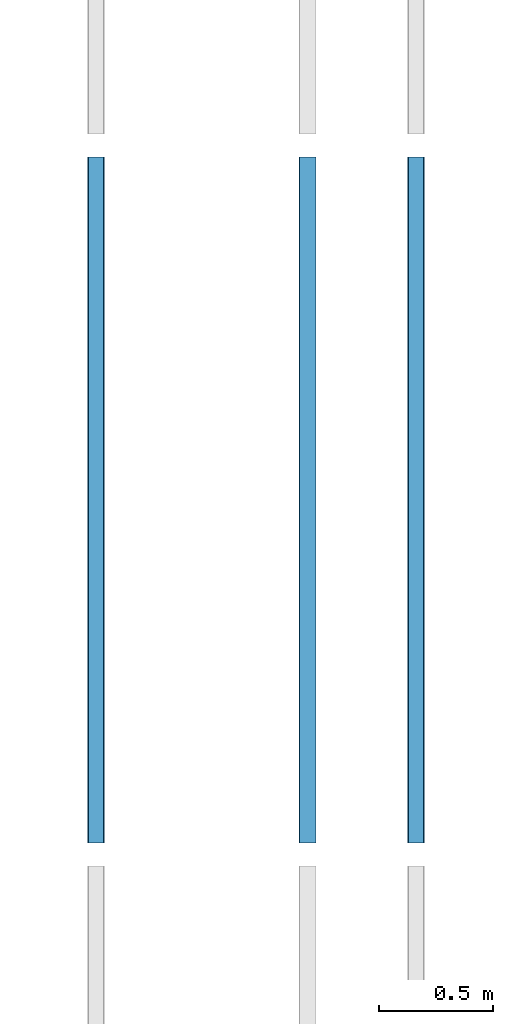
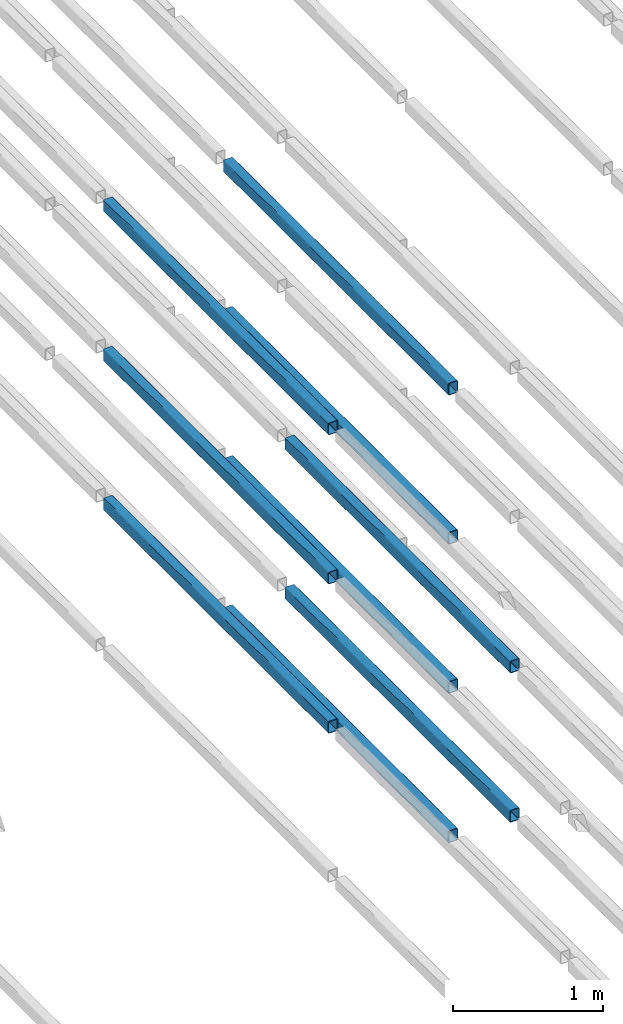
# One storey, part 86 of 290: 9 beams.
"""IFC2X3 building model written with IfcOpenShell, lengths in metres."""

from ifc_helpers import new_model, entity, si_unit, converted_unit, derived_unit, direction, frame, frame_2d, origin, place, context, subcontext, project, spatial, polyline, circle_curve, parameter, trimmed, segment, composite_curve, outline, extrude, material, type_object, element, save


model = new_model("IFC2X3")

# Units and contexts
model_context = context("Model", 3, precision=1e-05, world=origin(), true_north=direction((6.12303176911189e-17, 1.0)))
body_context = subcontext(model_context, "Body", "Model", "MODEL_VIEW")
ifc_project = project(units=[si_unit("LENGTHUNIT", "METRE"), si_unit("AREAUNIT", "SQUARE_METRE"), si_unit("VOLUMEUNIT", "CUBIC_METRE"), converted_unit("PLANEANGLEUNIT", "DEGREE", entity("IfcRatioMeasure", 0.0174532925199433), si_unit("PLANEANGLEUNIT", "RADIAN"), dimensions=[0, 0, 0, 0, 0, 0, 0]), si_unit("MASSUNIT", "GRAM", prefix="KILO"), derived_unit("MASSDENSITYUNIT", [(si_unit("MASSUNIT", "GRAM", prefix="KILO"), 1), (si_unit("LENGTHUNIT", "METRE"), -3)]), derived_unit("MOMENTOFINERTIAUNIT", [(si_unit("LENGTHUNIT", "METRE"), 4)]), si_unit("TIMEUNIT", "SECOND"), si_unit("FREQUENCYUNIT", "HERTZ"), si_unit("THERMODYNAMICTEMPERATUREUNIT", "DEGREE_CELSIUS"), derived_unit("THERMALTRANSMITTANCEUNIT", [(si_unit("MASSUNIT", "GRAM", prefix="KILO"), 1), (si_unit("THERMODYNAMICTEMPERATUREUNIT", "KELVIN"), -1), (si_unit("TIMEUNIT", "SECOND"), -3)]), derived_unit("VOLUMETRICFLOWRATEUNIT", [(si_unit("LENGTHUNIT", "METRE"), 3), (si_unit("TIMEUNIT", "SECOND"), -1)]), si_unit("ELECTRICCURRENTUNIT", "AMPERE"), si_unit("ELECTRICVOLTAGEUNIT", "VOLT"), si_unit("POWERUNIT", "WATT"), si_unit("FORCEUNIT", "NEWTON", prefix="KILO"), si_unit("ILLUMINANCEUNIT", "LUX"), si_unit("LUMINOUSFLUXUNIT", "LUMEN"), si_unit("LUMINOUSINTENSITYUNIT", "CANDELA"), derived_unit("USERDEFINED", [(si_unit("MASSUNIT", "GRAM", prefix="KILO"), -1), (si_unit("LENGTHUNIT", "METRE"), -2), (si_unit("TIMEUNIT", "SECOND"), 3), (si_unit("LUMINOUSFLUXUNIT", "LUMEN"), 1)]), derived_unit("LINEARVELOCITYUNIT", [(si_unit("LENGTHUNIT", "METRE"), 1), (si_unit("TIMEUNIT", "SECOND"), -1)]), si_unit("PRESSUREUNIT", "PASCAL"), derived_unit("USERDEFINED", [(si_unit("LENGTHUNIT", "METRE"), -2), (si_unit("MASSUNIT", "GRAM", prefix="KILO"), 1), (si_unit("TIMEUNIT", "SECOND"), -2)]), derived_unit("LINEARFORCEUNIT", [(si_unit("MASSUNIT", "GRAM", prefix="KILO"), 1), (si_unit("LENGTHUNIT", "METRE"), 1), (si_unit("TIMEUNIT", "SECOND"), -2), (si_unit("LENGTHUNIT", "METRE"), -1)]), derived_unit("PLANARFORCEUNIT", [(si_unit("MASSUNIT", "GRAM", prefix="KILO"), 1), (si_unit("LENGTHUNIT", "METRE"), 1), (si_unit("TIMEUNIT", "SECOND"), -2), (si_unit("LENGTHUNIT", "METRE"), -2)])], contexts=[model_context])

# Site, building, storey
site_placement = place(None, origin())
site = spatial("IfcSite", under=ifc_project, at=site_placement, Name="Default", CompositionType="ELEMENT")
building_placement = place(site_placement, origin())
building = spatial("IfcBuilding", under=site, at=building_placement, CompositionType="ELEMENT")
storey_placement = place(building_placement, frame((0.0, 0.0, 4.0)))
storey = spatial("IfcBuildingStorey", under=building, at=storey_placement, Name="01_OG", CompositionType="ELEMENT", Elevation=4.0)

# Beams
ifc_material = material(Name="Metall - Baustahl S235 blau")
beam_type = type_object("IfcBeamType", Name="RHS Träger (EN 10219-2):RHS 100 x 75 x 5", PredefinedType="NOTDEFINED")
beam_1_placement = place(storey_placement, frame((-185.015111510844, 42.648088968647, 0.0150000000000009), z_axis=(0.0, 0.0, 1.0), x_axis=(0.0, 1.0, 0.0)))
element("IfcBeam", 1, at=beam_1_placement, inside=storey, type_object=beam_type, material=ifc_material, Name="RHS Träger (EN 10219-2):RHS 100 x 75 x 5", ObjectType="RHS Träger (EN 10219-2):RHS 100 x 75 x 5", context=body_context, shape_type="SweptSolid", body=[
    extrude(outline(composite_curve([segment(trimmed(circle_curve(frame_2d((-0.0274999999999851, -0.0400000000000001), x_axis=(1.0, 0.0)), 0.01), [parameter(180.0)], [parameter(270.0)], True, "PARAMETER"), True, "CONTINUOUS"), segment(polyline([(-0.0274999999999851, -0.05), (0.0274999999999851, -0.05)]), True, "CONTINUOUS"), segment(trimmed(circle_curve(frame_2d((0.0274999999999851, -0.0400000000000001), x_axis=(1.0, 0.0)), 0.01), [parameter(270.0)], [parameter(5.08888749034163e-14)], True, "PARAMETER"), True, "CONTINUOUS"), segment(polyline([(0.0375000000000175, -0.0400000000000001), (0.0375000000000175, 0.0400000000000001)]), True, "CONTINUOUS"), segment(trimmed(circle_curve(frame_2d((0.0274999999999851, 0.0400000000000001), x_axis=(1.0, 0.0)), 0.01), [parameter(360.0)], [parameter(89.9999999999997)], True, "PARAMETER"), True, "CONTINUOUS"), segment(polyline([(0.0274999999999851, 0.05), (-0.0274999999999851, 0.05)]), True, "CONTINUOUS"), segment(trimmed(circle_curve(frame_2d((-0.0274999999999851, 0.0400000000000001), x_axis=(1.0, 0.0)), 0.01), [parameter(90.0000000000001)], [parameter(180.0)], True, "PARAMETER"), True, "CONTINUOUS"), segment(polyline([(-0.0374999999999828, 0.0400000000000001), (-0.0374999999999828, -0.0400000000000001)]), True, "CONTINUOUS")], self_intersect=False), holes=[composite_curve([segment(polyline([(0.0274999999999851, -0.0450000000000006), (-0.0274999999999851, -0.0450000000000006)]), True, "CONTINUOUS"), segment(trimmed(circle_curve(frame_2d((-0.0274999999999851, -0.0400000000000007), x_axis=(1.0, 0.0)), 0.005), [parameter(180.0)], [parameter(270.0)], True, "PARAMETER"), False, "CONTINUOUS"), segment(polyline([(-0.0325000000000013, -0.0400000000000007), (-0.0325000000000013, 0.039999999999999)]), True, "CONTINUOUS"), segment(trimmed(circle_curve(frame_2d((-0.0274999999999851, 0.039999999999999), x_axis=(1.0, 0.0)), 0.005), [parameter(90.0000000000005)], [parameter(180.0)], True, "PARAMETER"), False, "CONTINUOUS"), segment(polyline([(-0.0274999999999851, 0.044999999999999), (0.0274999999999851, 0.044999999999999)]), True, "CONTINUOUS"), segment(trimmed(circle_curve(frame_2d((0.0274999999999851, 0.039999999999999), x_axis=(1.0, 0.0)), 0.005), [parameter(0.0)], [parameter(90.0000000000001)], True, "PARAMETER"), False, "CONTINUOUS"), segment(polyline([(0.0325000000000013, 0.039999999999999), (0.0325000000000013, -0.0400000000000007)]), True, "CONTINUOUS"), segment(trimmed(circle_curve(frame_2d((0.0274999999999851, -0.0400000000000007), x_axis=(1.0, 0.0)), 0.005), [parameter(270.0)], [parameter(4.07110999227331e-13)], True, "PARAMETER"), False, "CONTINUOUS")], self_intersect=False)]), frame((9.99999999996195e-05, 0.0375000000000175, -0.0500000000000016), z_axis=(1.0, 0.0, 0.0), x_axis=(0.0, -1.0, 0.0)), (0.0, 0.0, 1.0), 2.99979999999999),
])
beam_2_placement = place(storey_placement, frame((-185.015111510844, 42.648088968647, 1.23), z_axis=(0.0, 0.0, 1.0), x_axis=(0.0, 1.0, 0.0)))
element("IfcBeam", 2, at=beam_2_placement, inside=storey, type_object=beam_type, material=ifc_material, Name="RHS Träger (EN 10219-2):RHS 100 x 75 x 5", ObjectType="RHS Träger (EN 10219-2):RHS 100 x 75 x 5", context=body_context, shape_type="SweptSolid", body=[
    extrude(outline(composite_curve([segment(trimmed(circle_curve(frame_2d((-0.0274999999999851, -0.0399999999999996), x_axis=(1.0, 0.0)), 0.01), [parameter(180.0)], [parameter(270.0)], True, "PARAMETER"), True, "CONTINUOUS"), segment(polyline([(-0.0274999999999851, -0.0499999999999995), (0.0274999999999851, -0.0499999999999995)]), True, "CONTINUOUS"), segment(trimmed(circle_curve(frame_2d((0.0274999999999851, -0.0399999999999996), x_axis=(1.0, 0.0)), 0.01), [parameter(270.0)], [parameter(5.08888749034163e-14)], True, "PARAMETER"), True, "CONTINUOUS"), segment(polyline([(0.0375000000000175, -0.0399999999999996), (0.0375000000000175, 0.0399999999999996)]), True, "CONTINUOUS"), segment(trimmed(circle_curve(frame_2d((0.0274999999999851, 0.0399999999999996), x_axis=(1.0, 0.0)), 0.01), [parameter(360.0)], [parameter(89.9999999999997)], True, "PARAMETER"), True, "CONTINUOUS"), segment(polyline([(0.0274999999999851, 0.0500000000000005), (-0.0274999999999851, 0.0500000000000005)]), True, "CONTINUOUS"), segment(trimmed(circle_curve(frame_2d((-0.0274999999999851, 0.0399999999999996), x_axis=(1.0, 0.0)), 0.01), [parameter(90.0000000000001)], [parameter(180.0)], True, "PARAMETER"), True, "CONTINUOUS"), segment(polyline([(-0.0374999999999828, 0.0399999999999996), (-0.0374999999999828, -0.0399999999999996)]), True, "CONTINUOUS")], self_intersect=False), holes=[composite_curve([segment(polyline([(0.0274999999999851, -0.0450000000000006), (-0.0274999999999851, -0.0450000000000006)]), True, "CONTINUOUS"), segment(trimmed(circle_curve(frame_2d((-0.0274999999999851, -0.0400000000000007), x_axis=(1.0, 0.0)), 0.005), [parameter(180.0)], [parameter(270.0)], True, "PARAMETER"), False, "CONTINUOUS"), segment(polyline([(-0.0325000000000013, -0.0400000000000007), (-0.0325000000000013, 0.0399999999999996)]), True, "CONTINUOUS"), segment(trimmed(circle_curve(frame_2d((-0.0274999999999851, 0.0399999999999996), x_axis=(1.0, 0.0)), 0.005), [parameter(90.0000000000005)], [parameter(180.0)], True, "PARAMETER"), False, "CONTINUOUS"), segment(polyline([(-0.0274999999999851, 0.0449999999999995), (0.0274999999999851, 0.0449999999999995)]), True, "CONTINUOUS"), segment(trimmed(circle_curve(frame_2d((0.0274999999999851, 0.0399999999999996), x_axis=(1.0, 0.0)), 0.005), [parameter(0.0)], [parameter(90.0000000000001)], True, "PARAMETER"), False, "CONTINUOUS"), segment(polyline([(0.0325000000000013, 0.0399999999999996), (0.0325000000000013, -0.0400000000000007)]), True, "CONTINUOUS"), segment(trimmed(circle_curve(frame_2d((0.0274999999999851, -0.0400000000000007), x_axis=(1.0, 0.0)), 0.005), [parameter(270.0)], [parameter(4.07110999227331e-13)], True, "PARAMETER"), False, "CONTINUOUS")], self_intersect=False)]), frame((9.99999999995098e-05, 0.0375000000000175, -0.0500000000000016), z_axis=(1.0, 0.0, 0.0), x_axis=(0.0, -1.0, 0.0)), (0.0, 0.0, 1.0), 2.99979999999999),
])
beam_3_placement = place(storey_placement, frame((-185.015111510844, 42.648088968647, 2.445), z_axis=(0.0, 0.0, 1.0), x_axis=(0.0, 1.0, 0.0)))
element("IfcBeam", 3, at=beam_3_placement, inside=storey, type_object=beam_type, material=ifc_material, Name="RHS Träger (EN 10219-2):RHS 100 x 75 x 5", ObjectType="RHS Träger (EN 10219-2):RHS 100 x 75 x 5", context=body_context, shape_type="SweptSolid", body=[
    extrude(outline(composite_curve([segment(trimmed(circle_curve(frame_2d((-0.0274999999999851, -0.0399999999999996), x_axis=(1.0, 0.0)), 0.01), [parameter(180.0)], [parameter(270.0)], True, "PARAMETER"), True, "CONTINUOUS"), segment(polyline([(-0.0274999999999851, -0.0499999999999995), (0.0274999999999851, -0.0499999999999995)]), True, "CONTINUOUS"), segment(trimmed(circle_curve(frame_2d((0.0274999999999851, -0.0399999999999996), x_axis=(1.0, 0.0)), 0.01), [parameter(270.0)], [parameter(5.08888749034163e-14)], True, "PARAMETER"), True, "CONTINUOUS"), segment(polyline([(0.0375000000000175, -0.0399999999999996), (0.0375000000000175, 0.0399999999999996)]), True, "CONTINUOUS"), segment(trimmed(circle_curve(frame_2d((0.0274999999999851, 0.0399999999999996), x_axis=(1.0, 0.0)), 0.01), [parameter(360.0)], [parameter(89.9999999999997)], True, "PARAMETER"), True, "CONTINUOUS"), segment(polyline([(0.0274999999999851, 0.0500000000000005), (-0.0274999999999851, 0.0500000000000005)]), True, "CONTINUOUS"), segment(trimmed(circle_curve(frame_2d((-0.0274999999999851, 0.0399999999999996), x_axis=(1.0, 0.0)), 0.01), [parameter(90.0000000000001)], [parameter(180.0)], True, "PARAMETER"), True, "CONTINUOUS"), segment(polyline([(-0.0374999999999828, 0.0399999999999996), (-0.0374999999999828, -0.0399999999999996)]), True, "CONTINUOUS")], self_intersect=False), holes=[composite_curve([segment(polyline([(0.0274999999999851, -0.0450000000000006), (-0.0274999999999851, -0.0450000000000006)]), True, "CONTINUOUS"), segment(trimmed(circle_curve(frame_2d((-0.0274999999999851, -0.0400000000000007), x_axis=(1.0, 0.0)), 0.005), [parameter(180.0)], [parameter(270.0)], True, "PARAMETER"), False, "CONTINUOUS"), segment(polyline([(-0.0325000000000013, -0.0400000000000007), (-0.0325000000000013, 0.0399999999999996)]), True, "CONTINUOUS"), segment(trimmed(circle_curve(frame_2d((-0.0274999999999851, 0.0399999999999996), x_axis=(1.0, 0.0)), 0.005), [parameter(90.0000000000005)], [parameter(180.0)], True, "PARAMETER"), False, "CONTINUOUS"), segment(polyline([(-0.0274999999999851, 0.0449999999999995), (0.0274999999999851, 0.0449999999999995)]), True, "CONTINUOUS"), segment(trimmed(circle_curve(frame_2d((0.0274999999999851, 0.0399999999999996), x_axis=(1.0, 0.0)), 0.005), [parameter(0.0)], [parameter(90.0000000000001)], True, "PARAMETER"), False, "CONTINUOUS"), segment(polyline([(0.0325000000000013, 0.0399999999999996), (0.0325000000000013, -0.0400000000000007)]), True, "CONTINUOUS"), segment(trimmed(circle_curve(frame_2d((0.0274999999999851, -0.0400000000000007), x_axis=(1.0, 0.0)), 0.005), [parameter(270.0)], [parameter(4.07110999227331e-13)], True, "PARAMETER"), False, "CONTINUOUS")], self_intersect=False)]), frame((9.99999999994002e-05, 0.0375000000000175, -0.0500000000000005), z_axis=(1.0, 0.0, 0.0), x_axis=(0.0, -1.0, 0.0)), (0.0, 0.0, 1.0), 2.99979999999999),
])
beam_4_placement = place(storey_placement, frame((-184.165111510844, 42.648088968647, -1.2), z_axis=(0.0, 0.0, 1.0), x_axis=(0.0, 1.0, 0.0)))
element("IfcBeam", 4, at=beam_4_placement, inside=storey, type_object=beam_type, material=ifc_material, Name="RHS Träger (EN 10219-2):RHS 100 x 75 x 5", ObjectType="RHS Träger (EN 10219-2):RHS 100 x 75 x 5", context=body_context, shape_type="SweptSolid", body=[
    extrude(outline(composite_curve([segment(polyline([(-0.0400000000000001, -0.0374999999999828), (0.0400000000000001, -0.0374999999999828)]), True, "CONTINUOUS"), segment(trimmed(circle_curve(frame_2d((0.0400000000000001, -0.0274999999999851), x_axis=(0.0, 1.0)), 0.01), [parameter(180.0)], [parameter(270.0)], True, "PARAMETER"), True, "CONTINUOUS"), segment(polyline([(0.05, -0.0274999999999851), (0.05, 0.0274999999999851)]), True, "CONTINUOUS"), segment(trimmed(circle_curve(frame_2d((0.0400000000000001, 0.0274999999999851), x_axis=(0.0, 1.0)), 0.01), [parameter(270.0)], [parameter(4.07110999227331e-13)], True, "PARAMETER"), True, "CONTINUOUS"), segment(polyline([(0.0400000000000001, 0.0375000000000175), (-0.0400000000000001, 0.0375000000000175)]), True, "CONTINUOUS"), segment(trimmed(circle_curve(frame_2d((-0.0400000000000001, 0.0274999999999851), x_axis=(0.0, 1.0)), 0.01), [parameter(360.0)], [parameter(90.0000000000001)], True, "PARAMETER"), True, "CONTINUOUS"), segment(polyline([(-0.05, 0.0274999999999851), (-0.05, -0.0274999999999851)]), True, "CONTINUOUS"), segment(trimmed(circle_curve(frame_2d((-0.0400000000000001, -0.0274999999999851), x_axis=(0.0, 1.0)), 0.01), [parameter(90.0000000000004)], [parameter(180.0)], True, "PARAMETER"), True, "CONTINUOUS")], self_intersect=False), holes=[composite_curve([segment(trimmed(circle_curve(frame_2d((-0.0400000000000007, 0.0274999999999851), x_axis=(0.0, 1.0)), 0.005), [parameter(360.0)], [parameter(89.9999999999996)], True, "PARAMETER"), False, "CONTINUOUS"), segment(polyline([(-0.0400000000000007, 0.0325000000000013), (0.039999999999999, 0.0325000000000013)]), True, "CONTINUOUS"), segment(trimmed(circle_curve(frame_2d((0.039999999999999, 0.0274999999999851), x_axis=(0.0, 1.0)), 0.005), [parameter(270.0)], [parameter(0.0)], True, "PARAMETER"), False, "CONTINUOUS"), segment(polyline([(0.044999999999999, 0.0274999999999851), (0.044999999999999, -0.0274999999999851)]), True, "CONTINUOUS"), segment(trimmed(circle_curve(frame_2d((0.039999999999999, -0.0274999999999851), x_axis=(0.0, 1.0)), 0.005), [parameter(180.0)], [parameter(269.999999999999)], True, "PARAMETER"), False, "CONTINUOUS"), segment(polyline([(0.039999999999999, -0.0325000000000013), (-0.0400000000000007, -0.0325000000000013)]), True, "CONTINUOUS"), segment(trimmed(circle_curve(frame_2d((-0.0400000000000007, -0.0274999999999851), x_axis=(0.0, 1.0)), 0.005), [parameter(90.0000000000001)], [parameter(180.0)], True, "PARAMETER"), False, "CONTINUOUS"), segment(polyline([(-0.0450000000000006, -0.0274999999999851), (-0.0450000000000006, 0.0274999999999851)]), True, "CONTINUOUS")], self_intersect=False)]), frame((0.000100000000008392, -0.0375000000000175, -0.0500000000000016), z_axis=(1.0, 0.0, 0.0), x_axis=(0.0, 0.0, -1.0)), (0.0, 0.0, 1.0), 2.99979999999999),
])
beam_5_placement = place(storey_placement, frame((-184.165111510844, 42.648088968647, 0.0150000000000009), z_axis=(0.0, 0.0, 1.0), x_axis=(0.0, 1.0, 0.0)))
element("IfcBeam", 5, at=beam_5_placement, inside=storey, type_object=beam_type, material=ifc_material, Name="RHS Träger (EN 10219-2):RHS 100 x 75 x 5", ObjectType="RHS Träger (EN 10219-2):RHS 100 x 75 x 5", context=body_context, shape_type="SweptSolid", body=[
    extrude(outline(composite_curve([segment(polyline([(-0.0400000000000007, -0.0374999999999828), (0.0399999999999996, -0.0374999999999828)]), True, "CONTINUOUS"), segment(trimmed(circle_curve(frame_2d((0.0399999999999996, -0.0274999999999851), x_axis=(0.0, 1.0)), 0.01), [parameter(180.0)], [parameter(270.0)], True, "PARAMETER"), True, "CONTINUOUS"), segment(polyline([(0.0499999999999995, -0.0274999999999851), (0.0499999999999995, 0.0274999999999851)]), True, "CONTINUOUS"), segment(trimmed(circle_curve(frame_2d((0.0399999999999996, 0.0274999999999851), x_axis=(0.0, 1.0)), 0.01), [parameter(270.0)], [parameter(4.07110999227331e-13)], True, "PARAMETER"), True, "CONTINUOUS"), segment(polyline([(0.0399999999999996, 0.0375000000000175), (-0.0400000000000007, 0.0375000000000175)]), True, "CONTINUOUS"), segment(trimmed(circle_curve(frame_2d((-0.0400000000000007, 0.0274999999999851), x_axis=(0.0, 1.0)), 0.01), [parameter(360.0)], [parameter(90.0000000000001)], True, "PARAMETER"), True, "CONTINUOUS"), segment(polyline([(-0.0500000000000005, 0.0274999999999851), (-0.0500000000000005, -0.0274999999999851)]), True, "CONTINUOUS"), segment(trimmed(circle_curve(frame_2d((-0.0400000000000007, -0.0274999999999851), x_axis=(0.0, 1.0)), 0.01), [parameter(90.0000000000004)], [parameter(180.0)], True, "PARAMETER"), True, "CONTINUOUS")], self_intersect=False), holes=[composite_curve([segment(trimmed(circle_curve(frame_2d((-0.0400000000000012, 0.0274999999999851), x_axis=(0.0, 1.0)), 0.005), [parameter(360.0)], [parameter(89.9999999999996)], True, "PARAMETER"), False, "CONTINUOUS"), segment(polyline([(-0.0400000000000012, 0.0325000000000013), (0.0399999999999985, 0.0325000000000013)]), True, "CONTINUOUS"), segment(trimmed(circle_curve(frame_2d((0.0399999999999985, 0.0274999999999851), x_axis=(0.0, 1.0)), 0.005), [parameter(270.0)], [parameter(0.0)], True, "PARAMETER"), False, "CONTINUOUS"), segment(polyline([(0.0449999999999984, 0.0274999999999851), (0.0449999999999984, -0.0274999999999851)]), True, "CONTINUOUS"), segment(trimmed(circle_curve(frame_2d((0.0399999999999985, -0.0274999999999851), x_axis=(0.0, 1.0)), 0.005), [parameter(180.0)], [parameter(269.999999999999)], True, "PARAMETER"), False, "CONTINUOUS"), segment(polyline([(0.0399999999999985, -0.0325000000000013), (-0.0400000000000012, -0.0325000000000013)]), True, "CONTINUOUS"), segment(trimmed(circle_curve(frame_2d((-0.0400000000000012, -0.0274999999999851), x_axis=(0.0, 1.0)), 0.005), [parameter(90.0000000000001)], [parameter(180.0)], True, "PARAMETER"), False, "CONTINUOUS"), segment(polyline([(-0.0450000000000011, -0.0274999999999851), (-0.0450000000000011, 0.0274999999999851)]), True, "CONTINUOUS")], self_intersect=False)]), frame((0.000100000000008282, -0.0375000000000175, -0.0500000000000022), z_axis=(1.0, 0.0, 0.0), x_axis=(0.0, 0.0, -1.0)), (0.0, 0.0, 1.0), 2.99979999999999),
])
beam_6_placement = place(storey_placement, frame((-184.165111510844, 42.648088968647, 1.23), z_axis=(0.0, 0.0, 1.0), x_axis=(0.0, 1.0, 0.0)))
element("IfcBeam", 6, at=beam_6_placement, inside=storey, type_object=beam_type, material=ifc_material, Name="RHS Träger (EN 10219-2):RHS 100 x 75 x 5", ObjectType="RHS Träger (EN 10219-2):RHS 100 x 75 x 5", context=body_context, shape_type="SweptSolid", body=[
    extrude(outline(composite_curve([segment(polyline([(-0.0399999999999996, -0.0374999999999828), (0.0399999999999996, -0.0374999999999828)]), True, "CONTINUOUS"), segment(trimmed(circle_curve(frame_2d((0.0399999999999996, -0.0274999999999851), x_axis=(0.0, 1.0)), 0.01), [parameter(180.0)], [parameter(270.0)], True, "PARAMETER"), True, "CONTINUOUS"), segment(polyline([(0.0500000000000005, -0.0274999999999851), (0.0500000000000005, 0.0274999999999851)]), True, "CONTINUOUS"), segment(trimmed(circle_curve(frame_2d((0.0399999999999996, 0.0274999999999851), x_axis=(0.0, 1.0)), 0.01), [parameter(270.0)], [parameter(4.07110999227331e-13)], True, "PARAMETER"), True, "CONTINUOUS"), segment(polyline([(0.0399999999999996, 0.0375000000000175), (-0.0399999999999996, 0.0375000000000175)]), True, "CONTINUOUS"), segment(trimmed(circle_curve(frame_2d((-0.0399999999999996, 0.0274999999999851), x_axis=(0.0, 1.0)), 0.01), [parameter(360.0)], [parameter(90.0000000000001)], True, "PARAMETER"), True, "CONTINUOUS"), segment(polyline([(-0.0499999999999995, 0.0274999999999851), (-0.0499999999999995, -0.0274999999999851)]), True, "CONTINUOUS"), segment(trimmed(circle_curve(frame_2d((-0.0399999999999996, -0.0274999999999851), x_axis=(0.0, 1.0)), 0.01), [parameter(90.0000000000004)], [parameter(180.0)], True, "PARAMETER"), True, "CONTINUOUS")], self_intersect=False), holes=[composite_curve([segment(trimmed(circle_curve(frame_2d((-0.0400000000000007, 0.0274999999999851), x_axis=(0.0, 1.0)), 0.005), [parameter(360.0)], [parameter(89.9999999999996)], True, "PARAMETER"), False, "CONTINUOUS"), segment(polyline([(-0.0400000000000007, 0.0325000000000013), (0.0399999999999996, 0.0325000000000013)]), True, "CONTINUOUS"), segment(trimmed(circle_curve(frame_2d((0.0399999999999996, 0.0274999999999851), x_axis=(0.0, 1.0)), 0.005), [parameter(270.0)], [parameter(0.0)], True, "PARAMETER"), False, "CONTINUOUS"), segment(polyline([(0.0449999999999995, 0.0274999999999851), (0.0449999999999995, -0.0274999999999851)]), True, "CONTINUOUS"), segment(trimmed(circle_curve(frame_2d((0.0399999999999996, -0.0274999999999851), x_axis=(0.0, 1.0)), 0.005), [parameter(180.0)], [parameter(269.999999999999)], True, "PARAMETER"), False, "CONTINUOUS"), segment(polyline([(0.0399999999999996, -0.0325000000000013), (-0.0400000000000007, -0.0325000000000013)]), True, "CONTINUOUS"), segment(trimmed(circle_curve(frame_2d((-0.0400000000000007, -0.0274999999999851), x_axis=(0.0, 1.0)), 0.005), [parameter(90.0000000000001)], [parameter(180.0)], True, "PARAMETER"), False, "CONTINUOUS"), segment(polyline([(-0.0450000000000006, -0.0274999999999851), (-0.0450000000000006, 0.0274999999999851)]), True, "CONTINUOUS")], self_intersect=False)]), frame((0.000100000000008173, -0.0375000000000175, -0.0500000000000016), z_axis=(1.0, 0.0, 0.0), x_axis=(0.0, 0.0, -1.0)), (0.0, 0.0, 1.0), 2.99979999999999),
])
beam_7_placement = place(storey_placement, frame((-184.165111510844, 42.648088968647, 2.445), z_axis=(0.0, 0.0, 1.0), x_axis=(0.0, 1.0, 0.0)))
element("IfcBeam", 7, at=beam_7_placement, inside=storey, type_object=beam_type, material=ifc_material, Name="RHS Träger (EN 10219-2):RHS 100 x 75 x 5", ObjectType="RHS Träger (EN 10219-2):RHS 100 x 75 x 5", context=body_context, shape_type="SweptSolid", body=[
    extrude(outline(composite_curve([segment(polyline([(-0.0399999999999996, -0.0374999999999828), (0.0399999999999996, -0.0374999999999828)]), True, "CONTINUOUS"), segment(trimmed(circle_curve(frame_2d((0.0399999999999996, -0.0274999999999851), x_axis=(0.0, 1.0)), 0.01), [parameter(180.0)], [parameter(270.0)], True, "PARAMETER"), True, "CONTINUOUS"), segment(polyline([(0.0500000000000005, -0.0274999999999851), (0.0500000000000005, 0.0274999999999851)]), True, "CONTINUOUS"), segment(trimmed(circle_curve(frame_2d((0.0399999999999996, 0.0274999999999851), x_axis=(0.0, 1.0)), 0.01), [parameter(270.0)], [parameter(4.07110999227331e-13)], True, "PARAMETER"), True, "CONTINUOUS"), segment(polyline([(0.0399999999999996, 0.0375000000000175), (-0.0399999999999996, 0.0375000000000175)]), True, "CONTINUOUS"), segment(trimmed(circle_curve(frame_2d((-0.0399999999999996, 0.0274999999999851), x_axis=(0.0, 1.0)), 0.01), [parameter(360.0)], [parameter(90.0000000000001)], True, "PARAMETER"), True, "CONTINUOUS"), segment(polyline([(-0.0499999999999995, 0.0274999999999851), (-0.0499999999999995, -0.0274999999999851)]), True, "CONTINUOUS"), segment(trimmed(circle_curve(frame_2d((-0.0399999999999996, -0.0274999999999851), x_axis=(0.0, 1.0)), 0.01), [parameter(90.0000000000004)], [parameter(180.0)], True, "PARAMETER"), True, "CONTINUOUS")], self_intersect=False), holes=[composite_curve([segment(trimmed(circle_curve(frame_2d((-0.0400000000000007, 0.0274999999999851), x_axis=(0.0, 1.0)), 0.005), [parameter(360.0)], [parameter(89.9999999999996)], True, "PARAMETER"), False, "CONTINUOUS"), segment(polyline([(-0.0400000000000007, 0.0325000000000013), (0.0399999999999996, 0.0325000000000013)]), True, "CONTINUOUS"), segment(trimmed(circle_curve(frame_2d((0.0399999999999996, 0.0274999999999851), x_axis=(0.0, 1.0)), 0.005), [parameter(270.0)], [parameter(0.0)], True, "PARAMETER"), False, "CONTINUOUS"), segment(polyline([(0.0449999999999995, 0.0274999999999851), (0.0449999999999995, -0.0274999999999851)]), True, "CONTINUOUS"), segment(trimmed(circle_curve(frame_2d((0.0399999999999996, -0.0274999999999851), x_axis=(0.0, 1.0)), 0.005), [parameter(180.0)], [parameter(269.999999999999)], True, "PARAMETER"), False, "CONTINUOUS"), segment(polyline([(0.0399999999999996, -0.0325000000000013), (-0.0400000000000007, -0.0325000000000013)]), True, "CONTINUOUS"), segment(trimmed(circle_curve(frame_2d((-0.0400000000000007, -0.0274999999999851), x_axis=(0.0, 1.0)), 0.005), [parameter(90.0000000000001)], [parameter(180.0)], True, "PARAMETER"), False, "CONTINUOUS"), segment(polyline([(-0.0450000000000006, -0.0274999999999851), (-0.0450000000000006, 0.0274999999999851)]), True, "CONTINUOUS")], self_intersect=False)]), frame((0.000100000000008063, -0.0375000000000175, -0.0500000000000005), z_axis=(1.0, 0.0, 0.0), x_axis=(0.0, 0.0, -1.0)), (0.0, 0.0, 1.0), 2.99979999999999),
])
beam_8_placement = place(storey_placement, frame((-183.615111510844, 42.648088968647, -1.2), z_axis=(0.0, 0.0, 1.0), x_axis=(0.0, 1.0, 0.0)))
element("IfcBeam", 8, at=beam_8_placement, inside=storey, type_object=beam_type, material=ifc_material, Name="RHS Träger (EN 10219-2):RHS 100 x 75 x 5", ObjectType="RHS Träger (EN 10219-2):RHS 100 x 75 x 5", context=body_context, shape_type="SweptSolid", body=[
    extrude(outline(composite_curve([segment(trimmed(circle_curve(frame_2d((-0.0274999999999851, -0.0400000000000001), x_axis=(1.0, 0.0)), 0.01), [parameter(180.0)], [parameter(270.0)], True, "PARAMETER"), True, "CONTINUOUS"), segment(polyline([(-0.0274999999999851, -0.05), (0.0274999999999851, -0.05)]), True, "CONTINUOUS"), segment(trimmed(circle_curve(frame_2d((0.0274999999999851, -0.0400000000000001), x_axis=(1.0, 0.0)), 0.01), [parameter(270.0)], [parameter(5.08888749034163e-14)], True, "PARAMETER"), True, "CONTINUOUS"), segment(polyline([(0.0375000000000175, -0.0400000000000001), (0.0375000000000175, 0.0400000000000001)]), True, "CONTINUOUS"), segment(trimmed(circle_curve(frame_2d((0.0274999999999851, 0.0400000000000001), x_axis=(1.0, 0.0)), 0.01), [parameter(360.0)], [parameter(89.9999999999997)], True, "PARAMETER"), True, "CONTINUOUS"), segment(polyline([(0.0274999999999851, 0.05), (-0.0274999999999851, 0.05)]), True, "CONTINUOUS"), segment(trimmed(circle_curve(frame_2d((-0.0274999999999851, 0.0400000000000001), x_axis=(1.0, 0.0)), 0.01), [parameter(90.0000000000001)], [parameter(180.0)], True, "PARAMETER"), True, "CONTINUOUS"), segment(polyline([(-0.0374999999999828, 0.0400000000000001), (-0.0374999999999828, -0.0400000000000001)]), True, "CONTINUOUS")], self_intersect=False), holes=[composite_curve([segment(polyline([(0.0274999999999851, -0.0450000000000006), (-0.0274999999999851, -0.0450000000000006)]), True, "CONTINUOUS"), segment(trimmed(circle_curve(frame_2d((-0.0274999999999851, -0.0400000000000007), x_axis=(1.0, 0.0)), 0.005), [parameter(180.0)], [parameter(270.0)], True, "PARAMETER"), False, "CONTINUOUS"), segment(polyline([(-0.0325000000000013, -0.0400000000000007), (-0.0325000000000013, 0.039999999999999)]), True, "CONTINUOUS"), segment(trimmed(circle_curve(frame_2d((-0.0274999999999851, 0.039999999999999), x_axis=(1.0, 0.0)), 0.005), [parameter(90.0000000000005)], [parameter(180.0)], True, "PARAMETER"), False, "CONTINUOUS"), segment(polyline([(-0.0274999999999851, 0.044999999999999), (0.0274999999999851, 0.044999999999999)]), True, "CONTINUOUS"), segment(trimmed(circle_curve(frame_2d((0.0274999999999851, 0.039999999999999), x_axis=(1.0, 0.0)), 0.005), [parameter(0.0)], [parameter(90.0000000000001)], True, "PARAMETER"), False, "CONTINUOUS"), segment(polyline([(0.0325000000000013, 0.039999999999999), (0.0325000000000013, -0.0400000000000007)]), True, "CONTINUOUS"), segment(trimmed(circle_curve(frame_2d((0.0274999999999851, -0.0400000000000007), x_axis=(1.0, 0.0)), 0.005), [parameter(270.0)], [parameter(4.07110999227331e-13)], True, "PARAMETER"), False, "CONTINUOUS")], self_intersect=False)]), frame((9.99999999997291e-05, 0.0375000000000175, -0.0500000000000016), z_axis=(1.0, 0.0, 0.0), x_axis=(0.0, -1.0, 0.0)), (0.0, 0.0, 1.0), 2.99979999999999),
])
beam_9_placement = place(storey_placement, frame((-183.615111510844, 42.648088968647, 0.0150000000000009), z_axis=(0.0, 0.0, 1.0), x_axis=(0.0, 1.0, 0.0)))
element("IfcBeam", 9, at=beam_9_placement, inside=storey, type_object=beam_type, material=ifc_material, Name="RHS Träger (EN 10219-2):RHS 100 x 75 x 5", ObjectType="RHS Träger (EN 10219-2):RHS 100 x 75 x 5", context=body_context, shape_type="SweptSolid", body=[
    extrude(outline(composite_curve([segment(trimmed(circle_curve(frame_2d((-0.0274999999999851, -0.0400000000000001), x_axis=(1.0, 0.0)), 0.01), [parameter(180.0)], [parameter(270.0)], True, "PARAMETER"), True, "CONTINUOUS"), segment(polyline([(-0.0274999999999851, -0.05), (0.0274999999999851, -0.05)]), True, "CONTINUOUS"), segment(trimmed(circle_curve(frame_2d((0.0274999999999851, -0.0400000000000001), x_axis=(1.0, 0.0)), 0.01), [parameter(270.0)], [parameter(5.08888749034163e-14)], True, "PARAMETER"), True, "CONTINUOUS"), segment(polyline([(0.0375000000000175, -0.0400000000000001), (0.0375000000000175, 0.0400000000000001)]), True, "CONTINUOUS"), segment(trimmed(circle_curve(frame_2d((0.0274999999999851, 0.0400000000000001), x_axis=(1.0, 0.0)), 0.01), [parameter(360.0)], [parameter(89.9999999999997)], True, "PARAMETER"), True, "CONTINUOUS"), segment(polyline([(0.0274999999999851, 0.05), (-0.0274999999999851, 0.05)]), True, "CONTINUOUS"), segment(trimmed(circle_curve(frame_2d((-0.0274999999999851, 0.0400000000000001), x_axis=(1.0, 0.0)), 0.01), [parameter(90.0000000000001)], [parameter(180.0)], True, "PARAMETER"), True, "CONTINUOUS"), segment(polyline([(-0.0374999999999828, 0.0400000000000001), (-0.0374999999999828, -0.0400000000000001)]), True, "CONTINUOUS")], self_intersect=False), holes=[composite_curve([segment(polyline([(0.0274999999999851, -0.0450000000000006), (-0.0274999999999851, -0.0450000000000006)]), True, "CONTINUOUS"), segment(trimmed(circle_curve(frame_2d((-0.0274999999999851, -0.0400000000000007), x_axis=(1.0, 0.0)), 0.005), [parameter(180.0)], [parameter(270.0)], True, "PARAMETER"), False, "CONTINUOUS"), segment(polyline([(-0.0325000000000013, -0.0400000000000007), (-0.0325000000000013, 0.039999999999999)]), True, "CONTINUOUS"), segment(trimmed(circle_curve(frame_2d((-0.0274999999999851, 0.039999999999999), x_axis=(1.0, 0.0)), 0.005), [parameter(90.0000000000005)], [parameter(180.0)], True, "PARAMETER"), False, "CONTINUOUS"), segment(polyline([(-0.0274999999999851, 0.044999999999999), (0.0274999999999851, 0.044999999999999)]), True, "CONTINUOUS"), segment(trimmed(circle_curve(frame_2d((0.0274999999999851, 0.039999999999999), x_axis=(1.0, 0.0)), 0.005), [parameter(0.0)], [parameter(90.0000000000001)], True, "PARAMETER"), False, "CONTINUOUS"), segment(polyline([(0.0325000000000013, 0.039999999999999), (0.0325000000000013, -0.0400000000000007)]), True, "CONTINUOUS"), segment(trimmed(circle_curve(frame_2d((0.0274999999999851, -0.0400000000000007), x_axis=(1.0, 0.0)), 0.005), [parameter(270.0)], [parameter(4.07110999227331e-13)], True, "PARAMETER"), False, "CONTINUOUS")], self_intersect=False)]), frame((9.99999999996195e-05, 0.0375000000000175, -0.0500000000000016), z_axis=(1.0, 0.0, 0.0), x_axis=(0.0, -1.0, 0.0)), (0.0, 0.0, 1.0), 2.99979999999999),
])

save(model, "model.ifc")
